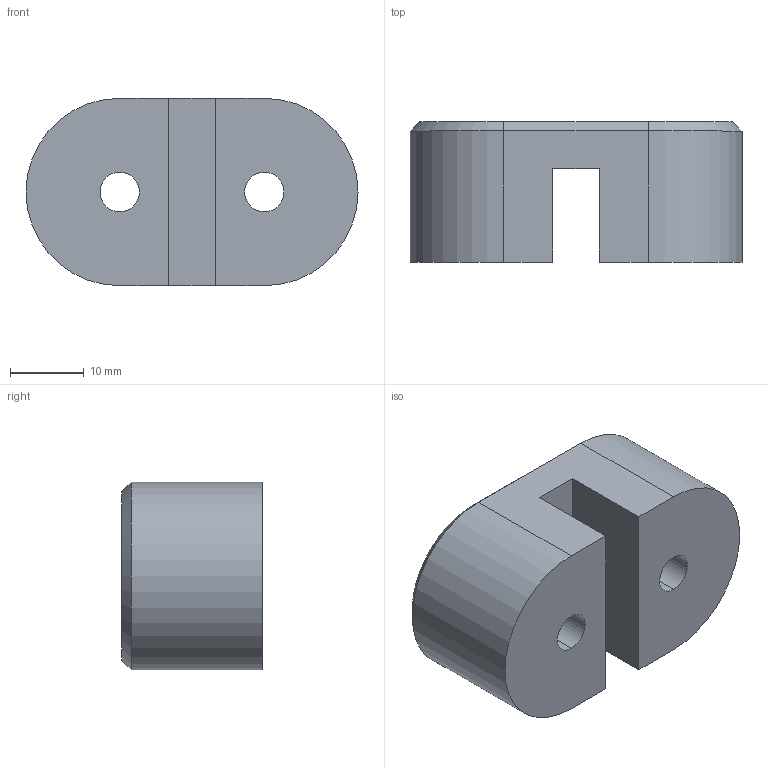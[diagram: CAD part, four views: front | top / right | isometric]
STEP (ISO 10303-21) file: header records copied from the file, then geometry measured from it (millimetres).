
FILE_DESCRIPTION (( 'STEP AP203' ), '1' );
FILE_NAME ('indicator holder.STEP', '2026-05-01T18:33:14', ( '' ), ( '' ), 'SwSTEP 2.0', 'SolidWorks 2023', '' );
FILE_SCHEMA (( 'CONFIG_CONTROL_DESIGN' ));
Length unit declared in the file: inch
Products named in the file (1): indicator holder
Bounding box: 45.01 x 19.05 x 25.4 mm (x, y, z)
Volume: 15658 mm3; surface area: 5335.8 mm2
Topology: 1 solids, 1 shells, 24 faces, 56 edges, 36 vertices
Faces by surface type: plane 12, cylinder 10, cone 2
Entity records: 777 total; most frequent: DIRECTION 128, CARTESIAN_POINT 117, ORIENTED_EDGE 112, EDGE_CURVE 56, AXIS2_PLACEMENT_3D 47, VERTEX_POINT 36, LINE 34, VECTOR 34
